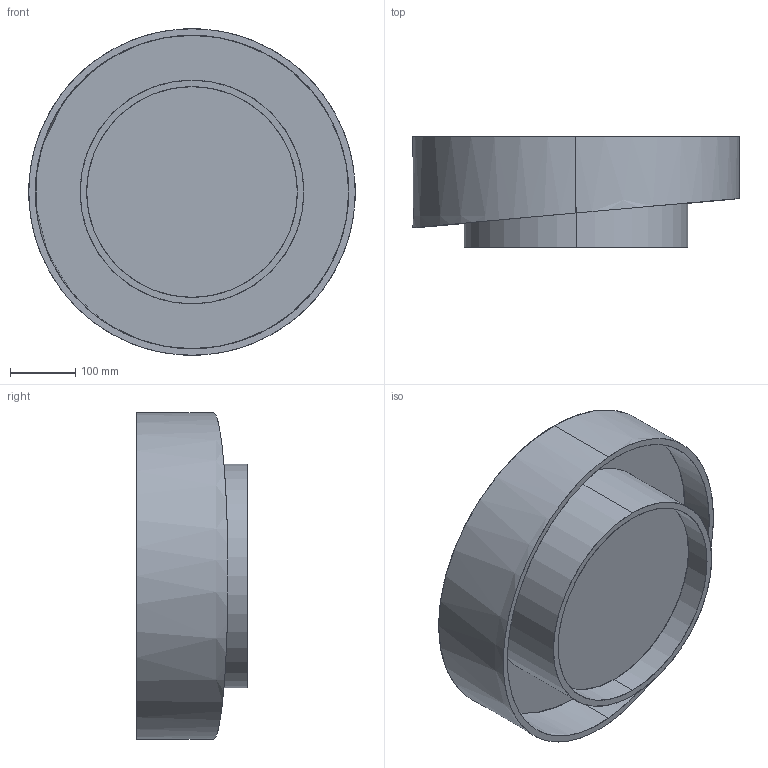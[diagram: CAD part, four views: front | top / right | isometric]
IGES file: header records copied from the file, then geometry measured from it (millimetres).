
Start section: SolidWorks IGES file using analytic representation for surfaces
Global section: file name: F:\燠隴矨\3D\2026-4\Vaako Ceiling Lamp-D50cm.IGS,15; native system: HSolidWorks 2022; preprocessor: SolidWorks 2022; author: MyPC; date: 260428.213854; units: millimetre
Bounding box: 500 x 170 x 500 mm (x, y, z)
Surface area: 1592819.4 mm2 (no closed solid volume)
Topology: 0 solids, 0 shells, 24 faces, 1158 edges, 1158 vertices
Faces by surface type: revolution 14, bspline 10
